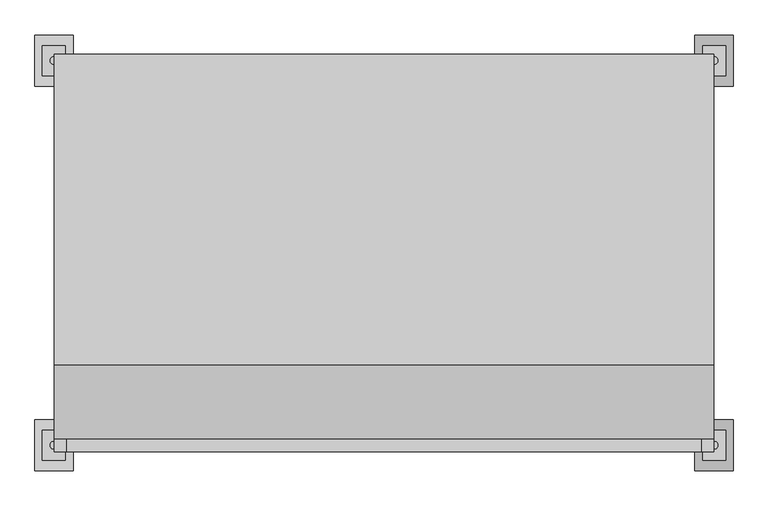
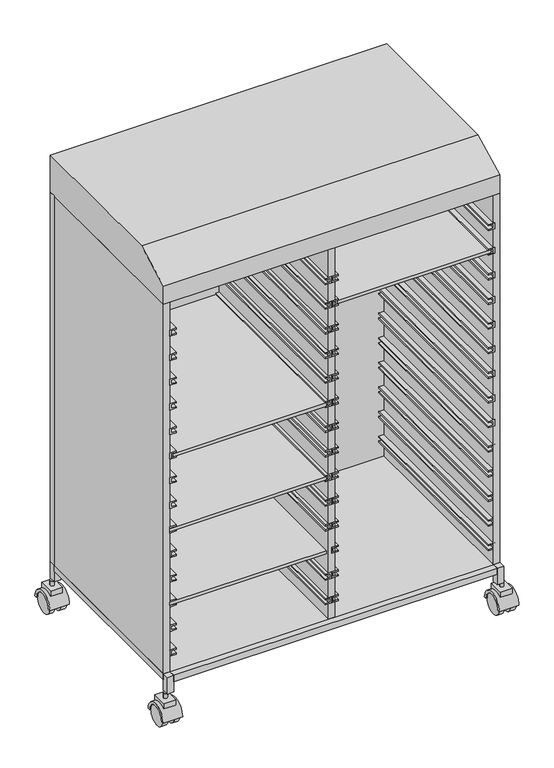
"""IFC4 building model written with IfcOpenShell, lengths in millimetres: furniture geometry, BIMHealth-Catheter_Rack-v1 : BIMHealth-Catheter_Rack-v1."""

from ifc_helpers import new_model, si_unit, point, frame, frame_2d, origin, place, context, project, spatial, polyline, circle_curve, trimmed, segment, composite_curve, outline, extrude, source, transform, mapped, element, save


def furniture_1bbdebfd(model_context):
    return source(origin(), model_context, "Body", "SweptSolid", [
        extrude(outline(composite_curve([segment(trimmed(circle_curve(frame_2d((646.2936384, -376.5)), 7.5), [point((653.7936384, -376.5))], [point((638.7936384, -376.5))], False, "CARTESIAN"), True, "CONTINUOUS"), segment(trimmed(circle_curve(frame_2d((646.2936384, -376.5)), 7.5), [point((638.7936384, -376.5))], [point((653.7936384, -376.5))], False, "CARTESIAN"), True, "CONTINUOUS")], self_intersect=False)), frame((0.0, 0.0, 102.2775188), z_axis=(0.0, 0.0, 1.0), x_axis=(1.0, 0.0, 0.0)), (0.0, 0.0, 1.0), 20.0),
        extrude(outline(composite_curve([segment(polyline([(-347.2435995, 102.2775188), (-347.2435995, 80.5470471)]), True, "CONTINUOUS"), segment(trimmed(circle_curve(frame_2d((-376.5, 40.0)), 50.0), [point((-347.2435995, 80.5470471))], [point((-405.7564005, 80.5470471))], True, "CARTESIAN"), True, "CONTINUOUS"), segment(polyline([(-405.7564005, 80.5470471), (-405.7564005, 102.2775188), (-347.2435995, 102.2775188)]), True, "CONTINUOUS")], self_intersect=False)), frame((623.6679747, 0.0, 0.0), z_axis=(1.0, 0.0, 0.0), x_axis=(0.0, 1.0, 0.0)), (0.0, 0.0, 1.0), 45.2513275),
        extrude(outline(composite_curve([segment(trimmed(circle_curve(frame_2d((-376.5, 40.0)), 40.0), [point((-336.5, 40.0))], [point((-416.5, 40.0))], True, "CARTESIAN"), True, "CONTINUOUS"), segment(polyline([(-416.5, 40.0), (-426.5, 40.0)]), True, "CONTINUOUS"), segment(trimmed(circle_curve(frame_2d((-376.5, 40.0)), 50.0), [point((-426.5, 40.0))], [point((-326.5, 40.0))], False, "CARTESIAN"), True, "CONTINUOUS"), segment(polyline([(-326.5, 40.0), (-336.5, 40.0)]), True, "CONTINUOUS")], self_intersect=False)), frame((608.5, 0.0, 0.0), z_axis=(1.0, 0.0, 0.0), x_axis=(0.0, 1.0, 0.0)), (0.0, 0.0, 1.0), 75.0),
        extrude(outline(composite_curve([segment(trimmed(circle_curve(frame_2d((-376.5, 40.0)), 40.0), [point((-416.5, 40.0))], [point((-336.5, 40.0))], False, "CARTESIAN"), True, "CONTINUOUS"), segment(trimmed(circle_curve(frame_2d((-376.5, 40.0)), 40.0), [point((-336.5, 40.0))], [point((-416.5, 40.0))], False, "CARTESIAN"), True, "CONTINUOUS")], self_intersect=False)), frame((613.5, 0.0, 0.0), z_axis=(1.0, 0.0, 0.0), x_axis=(0.0, 1.0, 0.0)), (0.0, 0.0, 1.0), 20.0),
        extrude(outline(composite_curve([segment(trimmed(circle_curve(frame_2d((-376.5, 40.0)), 40.0), [point((-416.5, 40.0))], [point((-336.5, 40.0))], False, "CARTESIAN"), True, "CONTINUOUS"), segment(trimmed(circle_curve(frame_2d((-376.5, 40.0)), 40.0), [point((-336.5, 40.0))], [point((-416.5, 40.0))], False, "CARTESIAN"), True, "CONTINUOUS")], self_intersect=False)), frame((658.5, 0.0, 0.0), z_axis=(1.0, 0.0, 0.0), x_axis=(0.0, 1.0, 0.0)), (0.0, 0.0, 1.0), 20.0),
        extrude(outline(composite_curve([segment(trimmed(circle_curve(frame_2d((-646.2936384, -376.5)), 7.5), [point((-653.7936384, -376.5))], [point((-638.7936384, -376.5))], False, "CARTESIAN"), True, "CONTINUOUS"), segment(trimmed(circle_curve(frame_2d((-646.2936384, -376.5)), 7.5), [point((-638.7936384, -376.5))], [point((-653.7936384, -376.5))], False, "CARTESIAN"), True, "CONTINUOUS")], self_intersect=False)), frame((0.0, 0.0, 102.2775188), z_axis=(0.0, 0.0, 1.0), x_axis=(1.0, 0.0, 0.0)), (0.0, 0.0, 1.0), 20.0),
        extrude(outline(composite_curve([segment(polyline([(-347.2435995, 102.2775188), (-347.2435995, 80.5470471)]), True, "CONTINUOUS"), segment(trimmed(circle_curve(frame_2d((-376.5, 40.0)), 50.0), [point((-347.2435995, 80.5470471))], [point((-405.7564005, 80.5470471))], True, "CARTESIAN"), True, "CONTINUOUS"), segment(polyline([(-405.7564005, 80.5470471), (-405.7564005, 102.2775188), (-347.2435995, 102.2775188)]), True, "CONTINUOUS")], self_intersect=False)), frame((-668.9193021, 0.0, 0.0), z_axis=(1.0, 0.0, 0.0), x_axis=(0.0, 1.0, 0.0)), (0.0, 0.0, 1.0), 45.2513275),
        extrude(outline(composite_curve([segment(trimmed(circle_curve(frame_2d((-376.5, 40.0)), 40.0), [point((-336.5, 40.0))], [point((-416.5, 40.0))], True, "CARTESIAN"), True, "CONTINUOUS"), segment(polyline([(-416.5, 40.0), (-426.5, 40.0)]), True, "CONTINUOUS"), segment(trimmed(circle_curve(frame_2d((-376.5, 40.0)), 50.0), [point((-426.5, 40.0))], [point((-326.5, 40.0))], False, "CARTESIAN"), True, "CONTINUOUS"), segment(polyline([(-326.5, 40.0), (-336.5, 40.0)]), True, "CONTINUOUS")], self_intersect=False)), frame((-683.5, 0.0, 0.0), z_axis=(1.0, 0.0, 0.0), x_axis=(0.0, 1.0, 0.0)), (0.0, 0.0, 1.0), 75.0),
        extrude(outline(composite_curve([segment(trimmed(circle_curve(frame_2d((-376.5, 40.0)), 40.0), [point((-416.5, 40.0))], [point((-336.5, 40.0))], False, "CARTESIAN"), True, "CONTINUOUS"), segment(trimmed(circle_curve(frame_2d((-376.5, 40.0)), 40.0), [point((-336.5, 40.0))], [point((-416.5, 40.0))], False, "CARTESIAN"), True, "CONTINUOUS")], self_intersect=False)), frame((-633.5, 0.0, 0.0), z_axis=(1.0, 0.0, 0.0), x_axis=(0.0, 1.0, 0.0)), (0.0, 0.0, 1.0), 20.0),
        extrude(outline(composite_curve([segment(trimmed(circle_curve(frame_2d((-376.5, 40.0)), 40.0), [point((-416.5, 40.0))], [point((-336.5, 40.0))], False, "CARTESIAN"), True, "CONTINUOUS"), segment(trimmed(circle_curve(frame_2d((-376.5, 40.0)), 40.0), [point((-336.5, 40.0))], [point((-416.5, 40.0))], False, "CARTESIAN"), True, "CONTINUOUS")], self_intersect=False)), frame((-678.5, 0.0, 0.0), z_axis=(1.0, 0.0, 0.0), x_axis=(0.0, 1.0, 0.0)), (0.0, 0.0, 1.0), 20.0),
        extrude(outline(composite_curve([segment(trimmed(circle_curve(frame_2d((646.2936384, 376.5)), 7.5), [point((653.7936384, 376.5))], [point((638.7936384, 376.5))], False, "CARTESIAN"), True, "CONTINUOUS"), segment(trimmed(circle_curve(frame_2d((646.2936384, 376.5)), 7.5), [point((638.7936384, 376.5))], [point((653.7936384, 376.5))], False, "CARTESIAN"), True, "CONTINUOUS")], self_intersect=False)), frame((0.0, 0.0, 102.2775188), z_axis=(0.0, 0.0, 1.0), x_axis=(1.0, 0.0, 0.0)), (0.0, 0.0, 1.0), 20.0),
        extrude(outline(composite_curve([segment(polyline([(347.2435995, 102.2775188), (405.7564005, 102.2775188), (405.7564005, 80.5470471)]), True, "CONTINUOUS"), segment(trimmed(circle_curve(frame_2d((376.5, 40.0)), 50.0), [point((405.7564005, 80.5470471))], [point((347.2435995, 80.5470471))], True, "CARTESIAN"), True, "CONTINUOUS"), segment(polyline([(347.2435995, 80.5470471), (347.2435995, 102.2775188)]), True, "CONTINUOUS")], self_intersect=False)), frame((623.6679747, 0.0, 0.0), z_axis=(1.0, 0.0, 0.0), x_axis=(0.0, 1.0, 0.0)), (0.0, 0.0, 1.0), 45.2513275),
        extrude(outline(composite_curve([segment(polyline([(336.5, 40.0), (326.5, 40.0)]), True, "CONTINUOUS"), segment(trimmed(circle_curve(frame_2d((376.5, 40.0)), 50.0), [point((326.5, 40.0))], [point((426.5, 40.0))], False, "CARTESIAN"), True, "CONTINUOUS"), segment(polyline([(426.5, 40.0), (416.5, 40.0)]), True, "CONTINUOUS"), segment(trimmed(circle_curve(frame_2d((376.5, 40.0)), 40.0), [point((416.5, 40.0))], [point((336.5, 40.0))], True, "CARTESIAN"), True, "CONTINUOUS")], self_intersect=False)), frame((608.5, 0.0, 0.0), z_axis=(1.0, 0.0, 0.0), x_axis=(0.0, 1.0, 0.0)), (0.0, 0.0, 1.0), 75.0),
        extrude(outline(composite_curve([segment(trimmed(circle_curve(frame_2d((376.5, 40.0)), 40.0), [point((416.5, 40.0))], [point((336.5, 40.0))], False, "CARTESIAN"), True, "CONTINUOUS"), segment(trimmed(circle_curve(frame_2d((376.5, 40.0)), 40.0), [point((336.5, 40.0))], [point((416.5, 40.0))], False, "CARTESIAN"), True, "CONTINUOUS")], self_intersect=False)), frame((613.5, 0.0, 0.0), z_axis=(1.0, 0.0, 0.0), x_axis=(0.0, 1.0, 0.0)), (0.0, 0.0, 1.0), 20.0),
        extrude(outline(composite_curve([segment(trimmed(circle_curve(frame_2d((376.5, 40.0)), 40.0), [point((416.5, 40.0))], [point((336.5, 40.0))], False, "CARTESIAN"), True, "CONTINUOUS"), segment(trimmed(circle_curve(frame_2d((376.5, 40.0)), 40.0), [point((336.5, 40.0))], [point((416.5, 40.0))], False, "CARTESIAN"), True, "CONTINUOUS")], self_intersect=False)), frame((658.5, 0.0, 0.0), z_axis=(1.0, 0.0, 0.0), x_axis=(0.0, 1.0, 0.0)), (0.0, 0.0, 1.0), 20.0),
        extrude(outline(composite_curve([segment(trimmed(circle_curve(frame_2d((-646.2936384, 376.5)), 7.5), [point((-653.7936384, 376.5))], [point((-638.7936384, 376.5))], False, "CARTESIAN"), True, "CONTINUOUS"), segment(trimmed(circle_curve(frame_2d((-646.2936384, 376.5)), 7.5), [point((-638.7936384, 376.5))], [point((-653.7936384, 376.5))], False, "CARTESIAN"), True, "CONTINUOUS")], self_intersect=False)), frame((0.0, 0.0, 102.2775188), z_axis=(0.0, 0.0, 1.0), x_axis=(1.0, 0.0, 0.0)), (0.0, 0.0, 1.0), 20.0),
        extrude(outline(composite_curve([segment(polyline([(347.2435995, 102.2775188), (405.7564005, 102.2775188), (405.7564005, 80.5470471)]), True, "CONTINUOUS"), segment(trimmed(circle_curve(frame_2d((376.5, 40.0)), 50.0), [point((405.7564005, 80.5470471))], [point((347.2435995, 80.5470471))], True, "CARTESIAN"), True, "CONTINUOUS"), segment(polyline([(347.2435995, 80.5470471), (347.2435995, 102.2775188)]), True, "CONTINUOUS")], self_intersect=False)), frame((-668.9193021, 0.0, 0.0), z_axis=(1.0, 0.0, 0.0), x_axis=(0.0, 1.0, 0.0)), (0.0, 0.0, 1.0), 45.2513275),
        extrude(outline(composite_curve([segment(polyline([(336.5, 40.0), (326.5, 40.0)]), True, "CONTINUOUS"), segment(trimmed(circle_curve(frame_2d((376.5, 40.0)), 50.0), [point((326.5, 40.0))], [point((426.5, 40.0))], False, "CARTESIAN"), True, "CONTINUOUS"), segment(polyline([(426.5, 40.0), (416.5, 40.0)]), True, "CONTINUOUS"), segment(trimmed(circle_curve(frame_2d((376.5, 40.0)), 40.0), [point((416.5, 40.0))], [point((336.5, 40.0))], True, "CARTESIAN"), True, "CONTINUOUS")], self_intersect=False)), frame((-683.5, 0.0, 0.0), z_axis=(1.0, 0.0, 0.0), x_axis=(0.0, 1.0, 0.0)), (0.0, 0.0, 1.0), 75.0),
        extrude(outline(composite_curve([segment(trimmed(circle_curve(frame_2d((376.5, 40.0)), 40.0), [point((416.5, 40.0))], [point((336.5, 40.0))], False, "CARTESIAN"), True, "CONTINUOUS"), segment(trimmed(circle_curve(frame_2d((376.5, 40.0)), 40.0), [point((336.5, 40.0))], [point((416.5, 40.0))], False, "CARTESIAN"), True, "CONTINUOUS")], self_intersect=False)), frame((-633.5, 0.0, 0.0), z_axis=(1.0, 0.0, 0.0), x_axis=(0.0, 1.0, 0.0)), (0.0, 0.0, 1.0), 20.0),
        extrude(outline(composite_curve([segment(trimmed(circle_curve(frame_2d((376.5, 40.0)), 40.0), [point((416.5, 40.0))], [point((336.5, 40.0))], False, "CARTESIAN"), True, "CONTINUOUS"), segment(trimmed(circle_curve(frame_2d((376.5, 40.0)), 40.0), [point((336.5, 40.0))], [point((416.5, 40.0))], False, "CARTESIAN"), True, "CONTINUOUS")], self_intersect=False)), frame((-678.5, 0.0, 0.0), z_axis=(1.0, 0.0, 0.0), x_axis=(0.0, 1.0, 0.0)), (0.0, 0.0, 1.0), 20.0),
        extrude(outline(polyline([(-21.127736, -364.0), (-608.5, -364.0), (-608.5, 364.0), (-21.127736, 364.0), (-21.127736, -364.0)])), frame((0.0, 0.0, 1058.5082664), z_axis=(0.0, 0.0, 1.0), x_axis=(1.0, 0.0, 0.0)), (0.0, 0.0, 1.0), 12.5),
        extrude(outline(polyline([(-21.127736, -364.0), (-621.0, -364.0), (-621.0, 364.0), (-21.127736, 364.0), (-21.127736, -364.0)])), frame((0.0, 0.0, 758.5082664), z_axis=(0.0, 0.0, 1.0), x_axis=(1.0, 0.0, 0.0)), (0.0, 0.0, 1.0), 12.5),
        extrude(outline(polyline([(-21.127736, -364.0), (-621.0, -364.0), (-621.0, 364.0), (-21.127736, 364.0), (-21.127736, -364.0)])), frame((0.0, 0.0, 458.5082664), z_axis=(0.0, 0.0, 1.0), x_axis=(1.0, 0.0, 0.0)), (0.0, 0.0, 1.0), 12.5),
        extrude(outline(polyline([(611.8868347, -364.0), (21.372264, -364.0), (21.372264, 364.0), (611.8868347, 364.0), (611.8868347, -364.0)])), frame((0.0, 0.0, 1458.5082664), z_axis=(0.0, 0.0, 1.0), x_axis=(1.0, 0.0, 0.0)), (0.0, 0.0, 1.0), 12.5),
        extrude(outline(polyline([(646.0, 364.0), (-646.0, 364.0), (-646.0, 389.0), (646.0, 389.0), (646.0, 364.0)])), frame((0.0, 0.0, 189.7775188), z_axis=(0.0, 0.0, 1.0), x_axis=(1.0, 0.0, 0.0)), (0.0, 0.0, 1.0), 1500.0),
        extrude(outline(polyline([(-364.0, 1689.7775188), (-364.0, 1764.7775188), (-219.0, 1839.7775188), (389.0, 1839.7775188), (389.0, 1689.7775188), (-364.0, 1689.7775188)])), frame((-646.0, 0.0, 0.0), z_axis=(1.0, 0.0, 0.0), x_axis=(0.0, 1.0, 0.0)), (0.0, 0.0, 1.0), 1292.0),
        extrude(outline(polyline([(1577.2775188, 0.0), (1552.2775188, 0.0), (1552.2775188, 25.0), (1557.2775188, 25.0), (1557.2775188, 5.0), (1572.2775188, 5.0), (1572.2775188, 25.0), (1577.2775188, 25.0), (1577.2775188, 0.0)])), frame((0.0, -364.0, 0.0), z_axis=(0.0, 1.0, 0.0), x_axis=(0.0, 0.0, 1.0)), (0.0, 0.0, 1.0), 728.0),
        extrude(outline(polyline([(1577.2775188, 0.0), (1577.2775188, -25.0), (1572.2775188, -25.0), (1572.2775188, -5.0), (1557.2775188, -5.0), (1557.2775188, -25.0), (1552.2775188, -25.0), (1552.2775188, 0.0), (1577.2775188, 0.0)])), frame((0.0, -364.0, 0.0), z_axis=(0.0, 1.0, 0.0), x_axis=(0.0, 0.0, 1.0)), (0.0, 0.0, 1.0), 728.0),
        extrude(outline(polyline([(1577.2775188, 626.0), (1577.2775188, 601.0), (1572.2775188, 601.0), (1572.2775188, 621.0), (1557.2775188, 621.0), (1557.2775188, 601.0), (1552.2775188, 601.0), (1552.2775188, 626.0), (1577.2775188, 626.0)])), frame((0.0, -364.0, 0.0), z_axis=(0.0, 1.0, 0.0), x_axis=(0.0, 0.0, 1.0)), (0.0, 0.0, 1.0), 728.0),
        extrude(outline(polyline([(1577.2775188, -621.0), (1552.2775188, -621.0), (1552.2775188, -596.0), (1557.2775188, -596.0), (1557.2775188, -616.0), (1572.2775188, -616.0), (1572.2775188, -596.0), (1577.2775188, -596.0), (1577.2775188, -621.0)])), frame((0.0, -364.0, 0.0), z_axis=(0.0, 1.0, 0.0), x_axis=(0.0, 0.0, 1.0)), (0.0, 0.0, 1.0), 728.0),
        extrude(outline(polyline([(1177.2775188, 0.0), (1152.2775188, 0.0), (1152.2775188, 25.0), (1157.2775188, 25.0), (1157.2775188, 5.0), (1172.2775188, 5.0), (1172.2775188, 25.0), (1177.2775188, 25.0), (1177.2775188, 0.0)])), frame((0.0, -364.0, 0.0), z_axis=(0.0, 1.0, 0.0), x_axis=(0.0, 0.0, 1.0)), (0.0, 0.0, 1.0), 728.0),
        extrude(outline(polyline([(1277.2775188, 0.0), (1252.2775188, 0.0), (1252.2775188, 25.0), (1257.2775188, 25.0), (1257.2775188, 5.0), (1272.2775188, 5.0), (1272.2775188, 25.0), (1277.2775188, 25.0), (1277.2775188, 0.0)])), frame((0.0, -364.0, 0.0), z_axis=(0.0, 1.0, 0.0), x_axis=(0.0, 0.0, 1.0)), (0.0, 0.0, 1.0), 728.0),
        extrude(outline(polyline([(1377.2775188, 0.0), (1352.2775188, 0.0), (1352.2775188, 25.0), (1357.2775188, 25.0), (1357.2775188, 5.0), (1372.2775188, 5.0), (1372.2775188, 25.0), (1377.2775188, 25.0), (1377.2775188, 0.0)])), frame((0.0, -364.0, 0.0), z_axis=(0.0, 1.0, 0.0), x_axis=(0.0, 0.0, 1.0)), (0.0, 0.0, 1.0), 728.0),
        extrude(outline(polyline([(1477.2775188, 0.0), (1452.2775188, 0.0), (1452.2775188, 25.0), (1457.2775188, 25.0), (1457.2775188, 5.0), (1472.2775188, 5.0), (1472.2775188, 25.0), (1477.2775188, 25.0), (1477.2775188, 0.0)])), frame((0.0, -364.0, 0.0), z_axis=(0.0, 1.0, 0.0), x_axis=(0.0, 0.0, 1.0)), (0.0, 0.0, 1.0), 728.0),
        extrude(outline(polyline([(1177.2775188, 0.0), (1177.2775188, -25.0), (1172.2775188, -25.0), (1172.2775188, -5.0), (1157.2775188, -5.0), (1157.2775188, -25.0), (1152.2775188, -25.0), (1152.2775188, 0.0), (1177.2775188, 0.0)])), frame((0.0, -364.0, 0.0), z_axis=(0.0, 1.0, 0.0), x_axis=(0.0, 0.0, 1.0)), (0.0, 0.0, 1.0), 728.0),
        extrude(outline(polyline([(1277.2775188, 0.0), (1277.2775188, -25.0), (1272.2775188, -25.0), (1272.2775188, -5.0), (1257.2775188, -5.0), (1257.2775188, -25.0), (1252.2775188, -25.0), (1252.2775188, 0.0), (1277.2775188, 0.0)])), frame((0.0, -364.0, 0.0), z_axis=(0.0, 1.0, 0.0), x_axis=(0.0, 0.0, 1.0)), (0.0, 0.0, 1.0), 728.0),
        extrude(outline(polyline([(1377.2775188, 0.0), (1377.2775188, -25.0), (1372.2775188, -25.0), (1372.2775188, -5.0), (1357.2775188, -5.0), (1357.2775188, -25.0), (1352.2775188, -25.0), (1352.2775188, 0.0), (1377.2775188, 0.0)])), frame((0.0, -364.0, 0.0), z_axis=(0.0, 1.0, 0.0), x_axis=(0.0, 0.0, 1.0)), (0.0, 0.0, 1.0), 728.0),
        extrude(outline(polyline([(1477.2775188, 0.0), (1477.2775188, -25.0), (1472.2775188, -25.0), (1472.2775188, -5.0), (1457.2775188, -5.0), (1457.2775188, -25.0), (1452.2775188, -25.0), (1452.2775188, 0.0), (1477.2775188, 0.0)])), frame((0.0, -364.0, 0.0), z_axis=(0.0, 1.0, 0.0), x_axis=(0.0, 0.0, 1.0)), (0.0, 0.0, 1.0), 728.0),
        extrude(outline(polyline([(1177.2775188, 626.0), (1177.2775188, 601.0), (1172.2775188, 601.0), (1172.2775188, 621.0), (1157.2775188, 621.0), (1157.2775188, 601.0), (1152.2775188, 601.0), (1152.2775188, 626.0), (1177.2775188, 626.0)])), frame((0.0, -364.0, 0.0), z_axis=(0.0, 1.0, 0.0), x_axis=(0.0, 0.0, 1.0)), (0.0, 0.0, 1.0), 728.0),
        extrude(outline(polyline([(1277.2775188, 626.0), (1277.2775188, 601.0), (1272.2775188, 601.0), (1272.2775188, 621.0), (1257.2775188, 621.0), (1257.2775188, 601.0), (1252.2775188, 601.0), (1252.2775188, 626.0), (1277.2775188, 626.0)])), frame((0.0, -364.0, 0.0), z_axis=(0.0, 1.0, 0.0), x_axis=(0.0, 0.0, 1.0)), (0.0, 0.0, 1.0), 728.0),
        extrude(outline(polyline([(1377.2775188, 626.0), (1377.2775188, 601.0), (1372.2775188, 601.0), (1372.2775188, 621.0), (1357.2775188, 621.0), (1357.2775188, 601.0), (1352.2775188, 601.0), (1352.2775188, 626.0), (1377.2775188, 626.0)])), frame((0.0, -364.0, 0.0), z_axis=(0.0, 1.0, 0.0), x_axis=(0.0, 0.0, 1.0)), (0.0, 0.0, 1.0), 728.0),
        extrude(outline(polyline([(1477.2775188, 626.0), (1477.2775188, 601.0), (1472.2775188, 601.0), (1472.2775188, 621.0), (1457.2775188, 621.0), (1457.2775188, 601.0), (1452.2775188, 601.0), (1452.2775188, 626.0), (1477.2775188, 626.0)])), frame((0.0, -364.0, 0.0), z_axis=(0.0, 1.0, 0.0), x_axis=(0.0, 0.0, 1.0)), (0.0, 0.0, 1.0), 728.0),
        extrude(outline(polyline([(1177.2775188, -621.0), (1152.2775188, -621.0), (1152.2775188, -596.0), (1157.2775188, -596.0), (1157.2775188, -616.0), (1172.2775188, -616.0), (1172.2775188, -596.0), (1177.2775188, -596.0), (1177.2775188, -621.0)])), frame((0.0, -364.0, 0.0), z_axis=(0.0, 1.0, 0.0), x_axis=(0.0, 0.0, 1.0)), (0.0, 0.0, 1.0), 728.0),
        extrude(outline(polyline([(1277.2775188, -621.0), (1252.2775188, -621.0), (1252.2775188, -596.0), (1257.2775188, -596.0), (1257.2775188, -616.0), (1272.2775188, -616.0), (1272.2775188, -596.0), (1277.2775188, -596.0), (1277.2775188, -621.0)])), frame((0.0, -364.0, 0.0), z_axis=(0.0, 1.0, 0.0), x_axis=(0.0, 0.0, 1.0)), (0.0, 0.0, 1.0), 728.0),
        extrude(outline(polyline([(1377.2775188, -621.0), (1352.2775188, -621.0), (1352.2775188, -596.0), (1357.2775188, -596.0), (1357.2775188, -616.0), (1372.2775188, -616.0), (1372.2775188, -596.0), (1377.2775188, -596.0), (1377.2775188, -621.0)])), frame((0.0, -364.0, 0.0), z_axis=(0.0, 1.0, 0.0), x_axis=(0.0, 0.0, 1.0)), (0.0, 0.0, 1.0), 728.0),
        extrude(outline(polyline([(1477.2775188, -621.0), (1452.2775188, -621.0), (1452.2775188, -596.0), (1457.2775188, -596.0), (1457.2775188, -616.0), (1472.2775188, -616.0), (1472.2775188, -596.0), (1477.2775188, -596.0), (1477.2775188, -621.0)])), frame((0.0, -364.0, 0.0), z_axis=(0.0, 1.0, 0.0), x_axis=(0.0, 0.0, 1.0)), (0.0, 0.0, 1.0), 728.0),
        extrude(outline(polyline([(777.2775188, 0.0), (752.2775188, 0.0), (752.2775188, 25.0), (757.2775188, 25.0), (757.2775188, 5.0), (772.2775188, 5.0), (772.2775188, 25.0), (777.2775188, 25.0), (777.2775188, 0.0)])), frame((0.0, -364.0, 0.0), z_axis=(0.0, 1.0, 0.0), x_axis=(0.0, 0.0, 1.0)), (0.0, 0.0, 1.0), 728.0),
        extrude(outline(polyline([(877.2775188, 0.0), (852.2775188, 0.0), (852.2775188, 25.0), (857.2775188, 25.0), (857.2775188, 5.0), (872.2775188, 5.0), (872.2775188, 25.0), (877.2775188, 25.0), (877.2775188, 0.0)])), frame((0.0, -364.0, 0.0), z_axis=(0.0, 1.0, 0.0), x_axis=(0.0, 0.0, 1.0)), (0.0, 0.0, 1.0), 728.0),
        extrude(outline(polyline([(977.2775188, 0.0), (952.2775188, 0.0), (952.2775188, 25.0), (957.2775188, 25.0), (957.2775188, 5.0), (972.2775188, 5.0), (972.2775188, 25.0), (977.2775188, 25.0), (977.2775188, 0.0)])), frame((0.0, -364.0, 0.0), z_axis=(0.0, 1.0, 0.0), x_axis=(0.0, 0.0, 1.0)), (0.0, 0.0, 1.0), 728.0),
        extrude(outline(polyline([(1077.2775188, 0.0), (1052.2775188, 0.0), (1052.2775188, 25.0), (1057.2775188, 25.0), (1057.2775188, 5.0), (1072.2775188, 5.0), (1072.2775188, 25.0), (1077.2775188, 25.0), (1077.2775188, 0.0)])), frame((0.0, -364.0, 0.0), z_axis=(0.0, 1.0, 0.0), x_axis=(0.0, 0.0, 1.0)), (0.0, 0.0, 1.0), 728.0),
        extrude(outline(polyline([(777.2775188, 0.0), (777.2775188, -25.0), (772.2775188, -25.0), (772.2775188, -5.0), (757.2775188, -5.0), (757.2775188, -25.0), (752.2775188, -25.0), (752.2775188, 0.0), (777.2775188, 0.0)])), frame((0.0, -364.0, 0.0), z_axis=(0.0, 1.0, 0.0), x_axis=(0.0, 0.0, 1.0)), (0.0, 0.0, 1.0), 728.0),
        extrude(outline(polyline([(877.2775188, 0.0), (877.2775188, -25.0), (872.2775188, -25.0), (872.2775188, -5.0), (857.2775188, -5.0), (857.2775188, -25.0), (852.2775188, -25.0), (852.2775188, 0.0), (877.2775188, 0.0)])), frame((0.0, -364.0, 0.0), z_axis=(0.0, 1.0, 0.0), x_axis=(0.0, 0.0, 1.0)), (0.0, 0.0, 1.0), 728.0),
        extrude(outline(polyline([(977.2775188, 0.0), (977.2775188, -25.0), (972.2775188, -25.0), (972.2775188, -5.0), (957.2775188, -5.0), (957.2775188, -25.0), (952.2775188, -25.0), (952.2775188, 0.0), (977.2775188, 0.0)])), frame((0.0, -364.0, 0.0), z_axis=(0.0, 1.0, 0.0), x_axis=(0.0, 0.0, 1.0)), (0.0, 0.0, 1.0), 728.0),
        extrude(outline(polyline([(1077.2775188, 0.0), (1077.2775188, -25.0), (1072.2775188, -25.0), (1072.2775188, -5.0), (1057.2775188, -5.0), (1057.2775188, -25.0), (1052.2775188, -25.0), (1052.2775188, 0.0), (1077.2775188, 0.0)])), frame((0.0, -364.0, 0.0), z_axis=(0.0, 1.0, 0.0), x_axis=(0.0, 0.0, 1.0)), (0.0, 0.0, 1.0), 728.0),
        extrude(outline(polyline([(777.2775188, 626.0), (777.2775188, 601.0), (772.2775188, 601.0), (772.2775188, 621.0), (757.2775188, 621.0), (757.2775188, 601.0), (752.2775188, 601.0), (752.2775188, 626.0), (777.2775188, 626.0)])), frame((0.0, -364.0, 0.0), z_axis=(0.0, 1.0, 0.0), x_axis=(0.0, 0.0, 1.0)), (0.0, 0.0, 1.0), 728.0),
        extrude(outline(polyline([(877.2775188, 626.0), (877.2775188, 601.0), (872.2775188, 601.0), (872.2775188, 621.0), (857.2775188, 621.0), (857.2775188, 601.0), (852.2775188, 601.0), (852.2775188, 626.0), (877.2775188, 626.0)])), frame((0.0, -364.0, 0.0), z_axis=(0.0, 1.0, 0.0), x_axis=(0.0, 0.0, 1.0)), (0.0, 0.0, 1.0), 728.0),
        extrude(outline(polyline([(977.2775188, 626.0), (977.2775188, 601.0), (972.2775188, 601.0), (972.2775188, 621.0), (957.2775188, 621.0), (957.2775188, 601.0), (952.2775188, 601.0), (952.2775188, 626.0), (977.2775188, 626.0)])), frame((0.0, -364.0, 0.0), z_axis=(0.0, 1.0, 0.0), x_axis=(0.0, 0.0, 1.0)), (0.0, 0.0, 1.0), 728.0),
        extrude(outline(polyline([(1077.2775188, 626.0), (1077.2775188, 601.0), (1072.2775188, 601.0), (1072.2775188, 621.0), (1057.2775188, 621.0), (1057.2775188, 601.0), (1052.2775188, 601.0), (1052.2775188, 626.0), (1077.2775188, 626.0)])), frame((0.0, -364.0, 0.0), z_axis=(0.0, 1.0, 0.0), x_axis=(0.0, 0.0, 1.0)), (0.0, 0.0, 1.0), 728.0),
        extrude(outline(polyline([(777.2775188, -621.0), (752.2775188, -621.0), (752.2775188, -596.0), (757.2775188, -596.0), (757.2775188, -616.0), (772.2775188, -616.0), (772.2775188, -596.0), (777.2775188, -596.0), (777.2775188, -621.0)])), frame((0.0, -364.0, 0.0), z_axis=(0.0, 1.0, 0.0), x_axis=(0.0, 0.0, 1.0)), (0.0, 0.0, 1.0), 728.0),
        extrude(outline(polyline([(877.2775188, -621.0), (852.2775188, -621.0), (852.2775188, -596.0), (857.2775188, -596.0), (857.2775188, -616.0), (872.2775188, -616.0), (872.2775188, -596.0), (877.2775188, -596.0), (877.2775188, -621.0)])), frame((0.0, -364.0, 0.0), z_axis=(0.0, 1.0, 0.0), x_axis=(0.0, 0.0, 1.0)), (0.0, 0.0, 1.0), 728.0),
        extrude(outline(polyline([(977.2775188, -621.0), (952.2775188, -621.0), (952.2775188, -596.0), (957.2775188, -596.0), (957.2775188, -616.0), (972.2775188, -616.0), (972.2775188, -596.0), (977.2775188, -596.0), (977.2775188, -621.0)])), frame((0.0, -364.0, 0.0), z_axis=(0.0, 1.0, 0.0), x_axis=(0.0, 0.0, 1.0)), (0.0, 0.0, 1.0), 728.0),
        extrude(outline(polyline([(1077.2775188, -621.0), (1052.2775188, -621.0), (1052.2775188, -596.0), (1057.2775188, -596.0), (1057.2775188, -616.0), (1072.2775188, -616.0), (1072.2775188, -596.0), (1077.2775188, -596.0), (1077.2775188, -621.0)])), frame((0.0, -364.0, 0.0), z_axis=(0.0, 1.0, 0.0), x_axis=(0.0, 0.0, 1.0)), (0.0, 0.0, 1.0), 728.0),
        extrude(outline(polyline([(-646.0, -364.0), (-646.0, 364.0), (-621.0, 364.0), (-621.0, -364.0), (-646.0, -364.0)])), frame((0.0, 0.0, 189.7775188), z_axis=(0.0, 0.0, 1.0), x_axis=(1.0, 0.0, 0.0)), (0.0, 0.0, 1.0), 1500.0),
        extrude(outline(polyline([(621.0, -364.0), (621.0, 364.0), (646.0, 364.0), (646.0, -364.0), (621.0, -364.0)])), frame((0.0, 0.0, 189.7775188), z_axis=(0.0, 0.0, 1.0), x_axis=(1.0, 0.0, 0.0)), (0.0, 0.0, 1.0), 1500.0),
        extrude(outline(polyline([(621.0, 389.0), (621.0, -364.0), (-621.0, -364.0), (-621.0, 389.0), (621.0, 389.0)])), frame((0.0, 0.0, 174.7775188), z_axis=(0.0, 0.0, 1.0), x_axis=(1.0, 0.0, 0.0)), (0.0, 0.0, 1.0), 15.0),
        extrude(outline(polyline([(277.2775188, 0.0), (252.2775188, 0.0), (252.2775188, 25.0), (257.2775188, 25.0), (257.2775188, 5.0), (272.2775188, 5.0), (272.2775188, 25.0), (277.2775188, 25.0), (277.2775188, 0.0)])), frame((0.0, -364.0, 0.0), z_axis=(0.0, 1.0, 0.0), x_axis=(0.0, 0.0, 1.0)), (0.0, 0.0, 1.0), 728.0),
        extrude(outline(polyline([(377.2775188, 0.0), (352.2775188, 0.0), (352.2775188, 25.0), (357.2775188, 25.0), (357.2775188, 5.0), (372.2775188, 5.0), (372.2775188, 25.0), (377.2775188, 25.0), (377.2775188, 0.0)])), frame((0.0, -364.0, 0.0), z_axis=(0.0, 1.0, 0.0), x_axis=(0.0, 0.0, 1.0)), (0.0, 0.0, 1.0), 728.0),
        extrude(outline(polyline([(477.2775188, 0.0), (452.2775188, 0.0), (452.2775188, 25.0), (457.2775188, 25.0), (457.2775188, 5.0), (472.2775188, 5.0), (472.2775188, 25.0), (477.2775188, 25.0), (477.2775188, 0.0)])), frame((0.0, -364.0, 0.0), z_axis=(0.0, 1.0, 0.0), x_axis=(0.0, 0.0, 1.0)), (0.0, 0.0, 1.0), 728.0),
        extrude(outline(polyline([(577.2775188, 0.0), (552.2775188, 0.0), (552.2775188, 25.0), (557.2775188, 25.0), (557.2775188, 5.0), (572.2775188, 5.0), (572.2775188, 25.0), (577.2775188, 25.0), (577.2775188, 0.0)])), frame((0.0, -364.0, 0.0), z_axis=(0.0, 1.0, 0.0), x_axis=(0.0, 0.0, 1.0)), (0.0, 0.0, 1.0), 728.0),
        extrude(outline(polyline([(677.2775188, 0.0), (652.2775188, 0.0), (652.2775188, 25.0), (657.2775188, 25.0), (657.2775188, 5.0), (672.2775188, 5.0), (672.2775188, 25.0), (677.2775188, 25.0), (677.2775188, 0.0)])), frame((0.0, -364.0, 0.0), z_axis=(0.0, 1.0, 0.0), x_axis=(0.0, 0.0, 1.0)), (0.0, 0.0, 1.0), 728.0),
        extrude(outline(polyline([(277.2775188, 0.0), (277.2775188, -25.0), (272.2775188, -25.0), (272.2775188, -5.0), (257.2775188, -5.0), (257.2775188, -25.0), (252.2775188, -25.0), (252.2775188, 0.0), (277.2775188, 0.0)])), frame((0.0, -364.0, 0.0), z_axis=(0.0, 1.0, 0.0), x_axis=(0.0, 0.0, 1.0)), (0.0, 0.0, 1.0), 728.0),
        extrude(outline(polyline([(377.2775188, 0.0), (377.2775188, -25.0), (372.2775188, -25.0), (372.2775188, -5.0), (357.2775188, -5.0), (357.2775188, -25.0), (352.2775188, -25.0), (352.2775188, 0.0), (377.2775188, 0.0)])), frame((0.0, -364.0, 0.0), z_axis=(0.0, 1.0, 0.0), x_axis=(0.0, 0.0, 1.0)), (0.0, 0.0, 1.0), 728.0),
        extrude(outline(polyline([(477.2775188, 0.0), (477.2775188, -25.0), (472.2775188, -25.0), (472.2775188, -5.0), (457.2775188, -5.0), (457.2775188, -25.0), (452.2775188, -25.0), (452.2775188, 0.0), (477.2775188, 0.0)])), frame((0.0, -6.0, 0.0), z_axis=(0.0, 1.0, 0.0), x_axis=(0.0, 0.0, 1.0)), (0.0, 0.0, 1.0), 370.0),
        extrude(outline(polyline([(577.2775188, 0.0), (577.2775188, -25.0), (572.2775188, -25.0), (572.2775188, -5.0), (557.2775188, -5.0), (557.2775188, -25.0), (552.2775188, -25.0), (552.2775188, 0.0), (577.2775188, 0.0)])), frame((0.0, -364.0, 0.0), z_axis=(0.0, 1.0, 0.0), x_axis=(0.0, 0.0, 1.0)), (0.0, 0.0, 1.0), 728.0),
        extrude(outline(polyline([(677.2775188, 0.0), (677.2775188, -25.0), (672.2775188, -25.0), (672.2775188, -5.0), (657.2775188, -5.0), (657.2775188, -25.0), (652.2775188, -25.0), (652.2775188, 0.0), (677.2775188, 0.0)])), frame((0.0, -364.0, 0.0), z_axis=(0.0, 1.0, 0.0), x_axis=(0.0, 0.0, 1.0)), (0.0, 0.0, 1.0), 728.0),
        extrude(outline(polyline([(12.5, -364.0), (-12.5, -364.0), (-12.5, 364.0), (12.5, 364.0), (12.5, -364.0)])), frame((0.0, 0.0, 189.7775188), z_axis=(0.0, 0.0, 1.0), x_axis=(1.0, 0.0, 0.0)), (0.0, 0.0, 1.0), 1500.0),
        extrude(outline(polyline([(277.2775188, 626.0), (277.2775188, 601.0), (272.2775188, 601.0), (272.2775188, 621.0), (257.2775188, 621.0), (257.2775188, 601.0), (252.2775188, 601.0), (252.2775188, 626.0), (277.2775188, 626.0)])), frame((0.0, -364.0, 0.0), z_axis=(0.0, 1.0, 0.0), x_axis=(0.0, 0.0, 1.0)), (0.0, 0.0, 1.0), 728.0),
        extrude(outline(polyline([(377.2775188, 626.0), (377.2775188, 601.0), (372.2775188, 601.0), (372.2775188, 621.0), (357.2775188, 621.0), (357.2775188, 601.0), (352.2775188, 601.0), (352.2775188, 626.0), (377.2775188, 626.0)])), frame((0.0, -364.0, 0.0), z_axis=(0.0, 1.0, 0.0), x_axis=(0.0, 0.0, 1.0)), (0.0, 0.0, 1.0), 728.0),
        extrude(outline(polyline([(477.2775188, 626.0), (477.2775188, 601.0), (472.2775188, 601.0), (472.2775188, 621.0), (457.2775188, 621.0), (457.2775188, 601.0), (452.2775188, 601.0), (452.2775188, 626.0), (477.2775188, 626.0)])), frame((0.0, -364.0, 0.0), z_axis=(0.0, 1.0, 0.0), x_axis=(0.0, 0.0, 1.0)), (0.0, 0.0, 1.0), 728.0),
        extrude(outline(polyline([(577.2775188, 626.0), (577.2775188, 601.0), (572.2775188, 601.0), (572.2775188, 621.0), (557.2775188, 621.0), (557.2775188, 601.0), (552.2775188, 601.0), (552.2775188, 626.0), (577.2775188, 626.0)])), frame((0.0, -364.0, 0.0), z_axis=(0.0, 1.0, 0.0), x_axis=(0.0, 0.0, 1.0)), (0.0, 0.0, 1.0), 728.0),
        extrude(outline(polyline([(677.2775188, 626.0), (677.2775188, 601.0), (672.2775188, 601.0), (672.2775188, 621.0), (657.2775188, 621.0), (657.2775188, 601.0), (652.2775188, 601.0), (652.2775188, 626.0), (677.2775188, 626.0)])), frame((0.0, -364.0, 0.0), z_axis=(0.0, 1.0, 0.0), x_axis=(0.0, 0.0, 1.0)), (0.0, 0.0, 1.0), 728.0),
        extrude(outline(polyline([(277.2775188, -621.0), (252.2775188, -621.0), (252.2775188, -596.0), (257.2775188, -596.0), (257.2775188, -616.0), (272.2775188, -616.0), (272.2775188, -596.0), (277.2775188, -596.0), (277.2775188, -621.0)])), frame((0.0, -364.0, 0.0), z_axis=(0.0, 1.0, 0.0), x_axis=(0.0, 0.0, 1.0)), (0.0, 0.0, 1.0), 728.0),
        extrude(outline(polyline([(377.2775188, -621.0), (352.2775188, -621.0), (352.2775188, -596.0), (357.2775188, -596.0), (357.2775188, -616.0), (372.2775188, -616.0), (372.2775188, -596.0), (377.2775188, -596.0), (377.2775188, -621.0)])), frame((0.0, -364.0, 0.0), z_axis=(0.0, 1.0, 0.0), x_axis=(0.0, 0.0, 1.0)), (0.0, 0.0, 1.0), 728.0),
        extrude(outline(polyline([(477.2775188, -621.0), (452.2775188, -621.0), (452.2775188, -596.0), (457.2775188, -596.0), (457.2775188, -616.0), (472.2775188, -616.0), (472.2775188, -596.0), (477.2775188, -596.0), (477.2775188, -621.0)])), frame((0.0, -364.0, 0.0), z_axis=(0.0, 1.0, 0.0), x_axis=(0.0, 0.0, 1.0)), (0.0, 0.0, 1.0), 728.0),
        extrude(outline(polyline([(577.2775188, -621.0), (552.2775188, -621.0), (552.2775188, -596.0), (557.2775188, -596.0), (557.2775188, -616.0), (572.2775188, -616.0), (572.2775188, -596.0), (577.2775188, -596.0), (577.2775188, -621.0)])), frame((0.0, -364.0, 0.0), z_axis=(0.0, 1.0, 0.0), x_axis=(0.0, 0.0, 1.0)), (0.0, 0.0, 1.0), 728.0),
        extrude(outline(polyline([(677.2775188, -621.0), (652.2775188, -621.0), (652.2775188, -596.0), (657.2775188, -596.0), (657.2775188, -616.0), (672.2775188, -616.0), (672.2775188, -596.0), (677.2775188, -596.0), (677.2775188, -621.0)])), frame((0.0, -364.0, 0.0), z_axis=(0.0, 1.0, 0.0), x_axis=(0.0, 0.0, 1.0)), (0.0, 0.0, 1.0), 728.0),
        extrude(outline(polyline([(621.0, 389.0), (621.0, 364.0), (-621.0, 364.0), (-621.0, 389.0), (621.0, 389.0)])), frame((0.0, 0.0, 164.7775188), z_axis=(0.0, 0.0, 1.0), x_axis=(1.0, 0.0, 0.0)), (0.0, 0.0, 1.0), 25.0),
        extrude(outline(polyline([(621.0, -364.0), (621.0, -389.0), (-621.0, -389.0), (-621.0, -364.0), (621.0, -364.0)])), frame((0.0, 0.0, 164.7775188), z_axis=(0.0, 0.0, 1.0), x_axis=(1.0, 0.0, 0.0)), (0.0, 0.0, 1.0), 25.0),
        extrude(outline(polyline([(-621.0, 364.0), (-621.0, -364.0), (-646.0, -364.0), (-646.0, 364.0), (-621.0, 364.0)])), frame((0.0, 0.0, 164.7775188), z_axis=(0.0, 0.0, 1.0), x_axis=(1.0, 0.0, 0.0)), (0.0, 0.0, 1.0), 25.0),
        extrude(outline(polyline([(646.0, 364.0), (646.0, -364.0), (621.0, -364.0), (621.0, 364.0), (646.0, 364.0)])), frame((0.0, 0.0, 164.7775188), z_axis=(0.0, 0.0, 1.0), x_axis=(1.0, 0.0, 0.0)), (0.0, 0.0, 1.0), 25.0),
        extrude(outline(polyline([(-646.0, -389.0), (-646.0, -364.0), (-621.0, -364.0), (-621.0, -389.0), (-646.0, -389.0)])), frame((0.0, 0.0, 122.2775188), z_axis=(0.0, 0.0, 1.0), x_axis=(1.0, 0.0, 0.0)), (0.0, 0.0, 1.0), 67.5),
        extrude(outline(polyline([(621.0, -364.0), (646.0, -364.0), (646.0, -389.0), (621.0, -389.0), (621.0, -364.0)])), frame((0.0, 0.0, 122.2775188), z_axis=(0.0, 0.0, 1.0), x_axis=(1.0, 0.0, 0.0)), (0.0, 0.0, 1.0), 67.5),
        extrude(outline(polyline([(-646.0, 389.0), (-621.0, 389.0), (-621.0, 364.0), (-646.0, 364.0), (-646.0, 389.0)])), frame((0.0, 0.0, 122.2775188), z_axis=(0.0, 0.0, 1.0), x_axis=(1.0, 0.0, 0.0)), (0.0, 0.0, 1.0), 67.5),
        extrude(outline(polyline([(621.0, 364.0), (621.0, 389.0), (646.0, 389.0), (646.0, 364.0), (621.0, 364.0)])), frame((0.0, 0.0, 122.2775188), z_axis=(0.0, 0.0, 1.0), x_axis=(1.0, 0.0, 0.0)), (0.0, 0.0, 1.0), 67.5),
    ])


if __name__ == "__main__":
    model = new_model("IFC4")
    model_context = context("Model", 3, world=origin())
    ifc_project = project(units=[si_unit("LENGTHUNIT", "METRE", prefix="MILLI")], contexts=[model_context])
    site = spatial("IfcSite", under=ifc_project)
    building = spatial("IfcBuilding", under=site)
    placement = place(None, origin())
    furniture_shape = furniture_1bbdebfd(model_context)
    element("IfcFurniture", 1, ObjectType="BIMHealth-Catheter_Rack-v1 : BIMHealth-Catheter_Rack-v1", at=placement, inside=building, context=model_context, shape_type="MappedRepresentation", body=[
        mapped(furniture_shape, transform((0.0, 0.0, 0.0), x_axis=(1.0, 0.0, 0.0), y_axis=(0.0, 1.0, 0.0), z_axis=(0.0, 0.0, 1.0))),
    ])
    save(model, "model.ifc")
